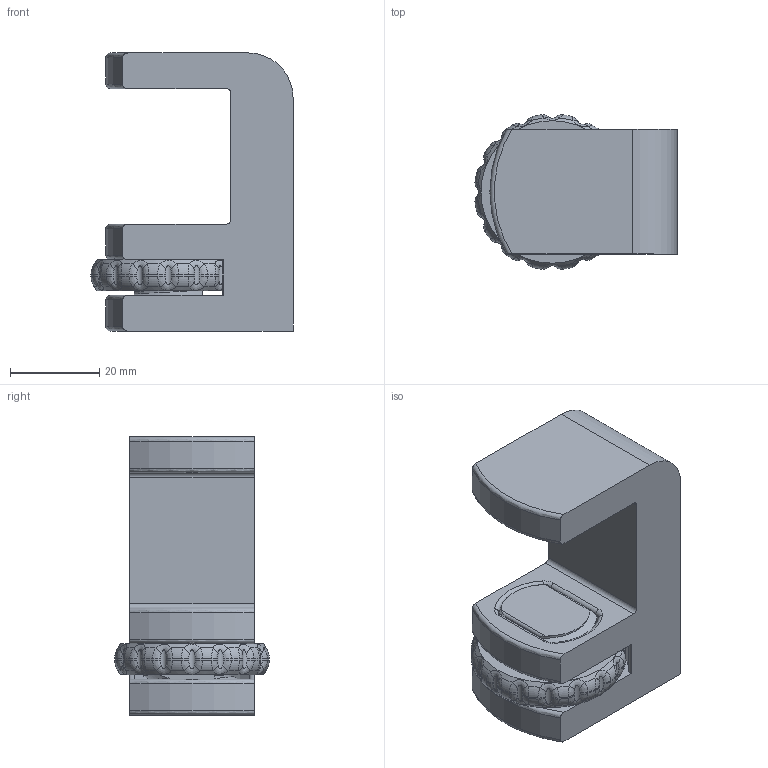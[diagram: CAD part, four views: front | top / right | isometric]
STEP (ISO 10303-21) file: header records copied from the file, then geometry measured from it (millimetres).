
FILE_DESCRIPTION(/* description */ (''),/* implementation_level */ '2;1');
FILE_NAME(/* name */ 'modular-vice_adjusted.step',/* time_stamp */ '2026-04-05T13:48:53-04:00',/* author */ (''),/* organization */ (''),/* preprocessor_version */ 'ST-DEVELOPER v20.1',/* originating_system */ 'Autodesk Translation Framework v14.24.0.0',/* authorisation */ '');
FILE_SCHEMA (('AUTOMOTIVE_DESIGN { 1 0 10303 214 3 1 1 }'));
Length unit declared in the file: millimetre
Products named in the file (2): IKEA Ivar Shelf Alignment vices; 25mm clamp with zip tie mount v5
Assembly tree (1 placements, depth 2):
  IKEA Ivar Shelf Alignment vices
    25mm clamp with zip tie mount v5
Bounding box: 45.36 x 34.71 x 62.4 mm (x, y, z)
Volume: 45412.6 mm3; surface area: 17572.5 mm2
Topology: 3 solids, 3 shells, 369 faces, 941 edges, 578 vertices
Faces by surface type: cylinder 141, bspline 134, torus 62, plane 30, cone 2
Full cylindrical faces by diameter (mm): 19.002 x1, 22.339 x1
Entity records: 20068 total; most frequent: CARTESIAN_POINT 12013, ORIENTED_EDGE 1882, DIRECTION 1355, EDGE_CURVE 941, VERTEX_POINT 578, AXIS2_PLACEMENT_3D 558, B_SPLINE_CURVE_WITH_KNOTS 382, EDGE_LOOP 377
